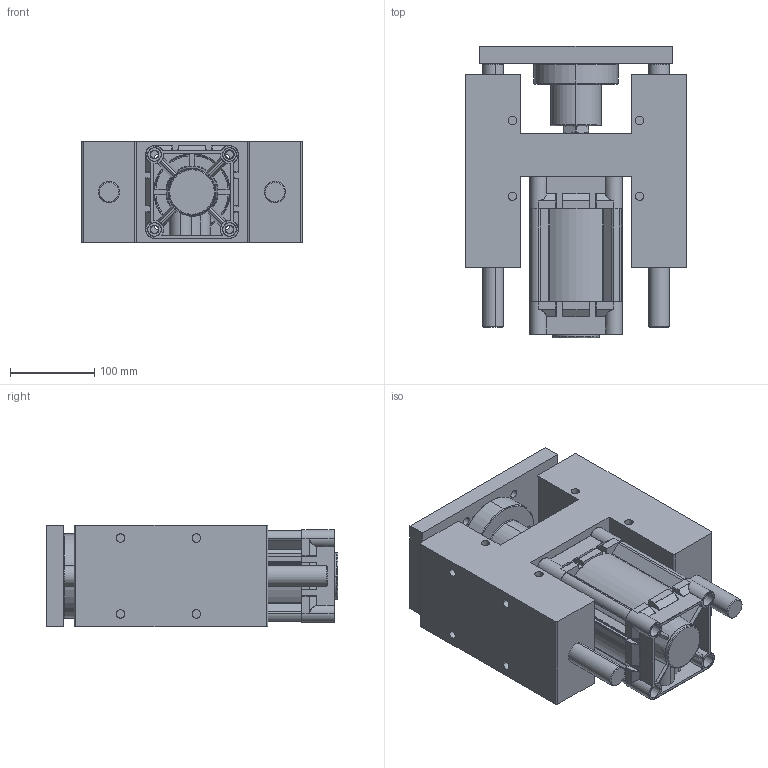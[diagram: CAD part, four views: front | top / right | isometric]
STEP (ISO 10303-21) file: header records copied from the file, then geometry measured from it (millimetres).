
FILE_DESCRIPTION (( 'STEP AP203' ), '1' );
FILE_NAME ('KDNT100X50H-YATAK.STEP', '2016-05-21T09:50:20', ( 'user' ), ( '' ), 'SwSTEP 2.0', 'SolidWorks 2013', '' );
FILE_SCHEMA (( 'CONFIG_CONTROL_DESIGN' ));
Length unit declared in the file: millimetre
Products named in the file (11): 烰 KAPAK  100; Piston Mili 100x50; DNC-H-YATAK 100; SOMUN 100; DNC-H-YATAK M尳 100x50; KDNT100X50H-YATAK; DNC-H-YATAK TABLA 100; DNC-H-YATAK MÝL YATAÐI 100; ARKA KAPAK  100; KDNT 100X50 BORU; ORTA PÝSTON 100
Assembly tree (11 placements, depth 2):
  KDNT100X50H-YATAK
    DNC-H-YATAK 100
    DNC-H-YATAK M尳 100x50  x2
    DNC-H-YATAK TABLA 100
    DNC-H-YATAK MÝL YATAÐI 100
    ARKA KAPAK  100
    KDNT 100X50 BORU
    ORTA PÝSTON 100
    烰 KAPAK  100
    Piston Mili 100x50
    SOMUN 100
Bounding box: 262 x 346.2 x 120.5 mm (x, y, z)
Volume: 6174551.9 mm3; surface area: 824638.5 mm2
Topology: 11 solids, 11 shells, 1278 faces, 3199 edges, 2021 vertices
Faces by surface type: cylinder 546, plane 378, cone 196, bspline 146, torus 12
Entity records: 52178 total; most frequent: CARTESIAN_POINT 22175, ORIENTED_EDGE 6346, DIRECTION 5514, EDGE_CURVE 3173, AXIS2_PLACEMENT_3D 2139, VERTEX_POINT 2013, EDGE_LOOP 1440, FACE_OUTER_BOUND 1270
